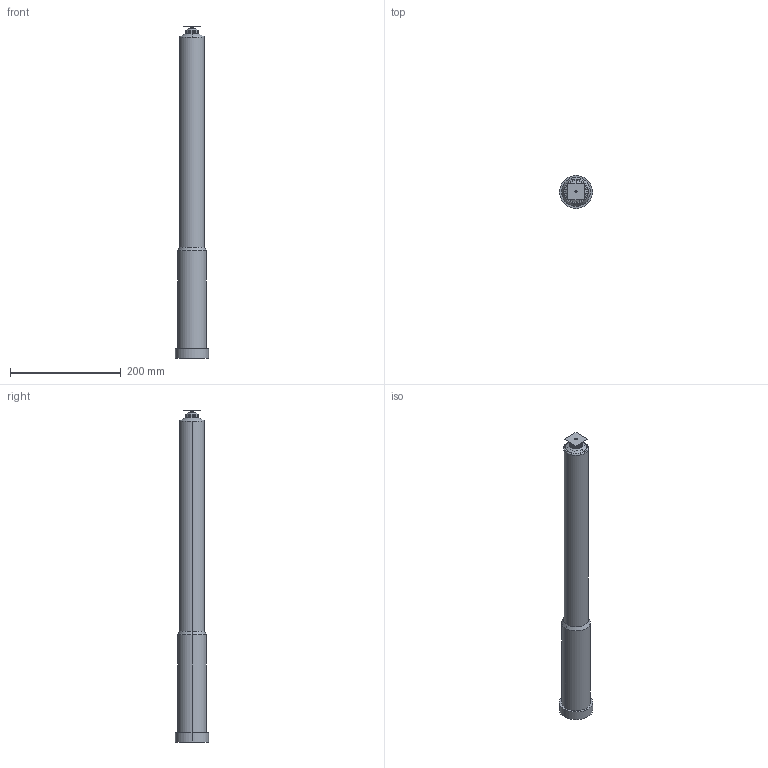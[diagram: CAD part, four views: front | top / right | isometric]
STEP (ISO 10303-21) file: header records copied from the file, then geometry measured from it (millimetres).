
FILE_DESCRIPTION (( 'STEP AP214' ), '1' );
FILE_NAME ('16E-06-600-VSW.STEP', '2021-07-14T13:42:34', ( '' ), ( '' ), 'SwSTEP 2.0', 'SolidWorks 2018', '' );
FILE_SCHEMA (( 'AUTOMOTIVE_DESIGN' ));
Length unit declared in the file: millimetre
Products named in the file (3): nozzle_16E-06-600-VSW; cutout_16E-06-600-VSW; 16E-06-600-VSW
Assembly tree (2 placements, depth 2):
  16E-06-600-VSW
    nozzle_16E-06-600-VSW
    cutout_16E-06-600-VSW
Bounding box: 60 x 60 x 600.3 mm (x, y, z)
Volume: 1049092.9 mm3; surface area: 309266.3 mm2
Topology: 1 solids, 4 shells, 355 faces, 1011 edges, 621 vertices
Faces by surface type: cylinder 140, plane 137, torus 47, cone 31
Entity records: 12520 total; most frequent: CARTESIAN_POINT 2825, DIRECTION 2175, ORIENTED_EDGE 2018, EDGE_CURVE 1011, AXIS2_PLACEMENT_3D 867, VERTEX_POINT 621, CIRCLE 506, LINE 441
